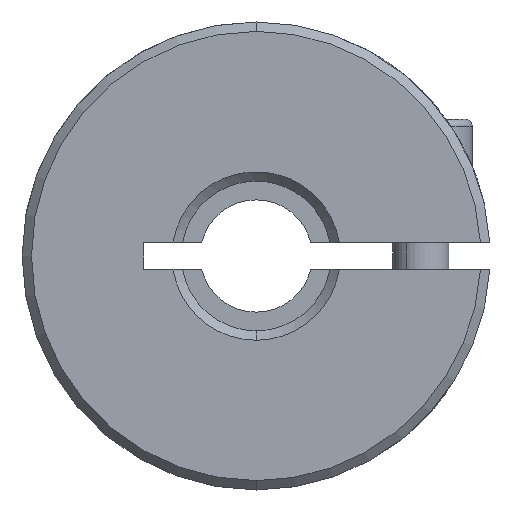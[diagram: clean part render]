
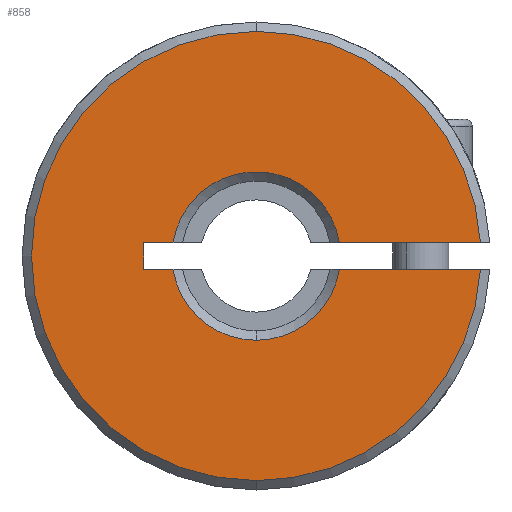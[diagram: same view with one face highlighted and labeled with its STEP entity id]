
A CAD part, front view. The second image highlights one B-rep face of the part: STEP entity #858.
In plain terms, the highlighted planar face has unit normal (0, -1, 0).
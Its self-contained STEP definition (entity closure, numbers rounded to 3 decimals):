
#4 = AXIS2_PLACEMENT_3D ( 'NONE', #5576, #4146, #5552 ) ;
#71 = CARTESIAN_POINT ( 'NONE',  ( 0., 0.25, 12. ) ) ;
#103 = CARTESIAN_POINT ( 'NONE',  ( -6., 0.25, 0.7 ) ) ;
#136 = LINE ( 'NONE', #103, #5336 ) ;
#160 = CARTESIAN_POINT ( 'NONE',  ( 11.98, 0.25, -0.7 ) ) ;
#226 = CARTESIAN_POINT ( 'NONE',  ( -6., 0.25, -0.7 ) ) ;
#272 = CARTESIAN_POINT ( 'NONE',  ( 0., 0.25, 0. ) ) ;
#403 = ORIENTED_EDGE ( 'NONE', *, *, #3407, .F. ) ;
#459 = EDGE_CURVE ( 'NONE', #3957, #2940, #2270, .T. ) ;
#525 = CARTESIAN_POINT ( 'NONE',  ( -6., 0.25, 0.7 ) ) ;
#602 = EDGE_CURVE ( 'NONE', #1663, #2940, #4792, .T. ) ;
#624 = CARTESIAN_POINT ( 'NONE',  ( 0., 0.25, 0. ) ) ;
#652 = VERTEX_POINT ( 'NONE', #2485 ) ;
#662 = DIRECTION ( 'NONE',  ( 1., 0., 0. ) ) ;
#724 = EDGE_CURVE ( 'NONE', #3102, #4240, #4523, .T. ) ;
#835 = ORIENTED_EDGE ( 'NONE', *, *, #5335, .F. ) ;
#837 = DIRECTION ( 'NONE',  ( 0., 1., 0. ) ) ;
#845 = DIRECTION ( 'NONE',  ( 0., 0., -1. ) ) ;
#858 = ADVANCED_FACE ( 'NONE', ( #3272 ), #938, .F. ) ;
#899 = AXIS2_PLACEMENT_3D ( 'NONE', #3546, #2690, #4986 ) ;
#938 = PLANE ( 'NONE',  #1987 ) ;
#996 = DIRECTION ( 'NONE',  ( 0., 1., 0. ) ) ;
#1061 = VERTEX_POINT ( 'NONE', #4479 ) ;
#1168 = CARTESIAN_POINT ( 'NONE',  ( 4.445, 0.25, 0.7 ) ) ;
#1184 = CIRCLE ( 'NONE', #4860, 4.5 ) ;
#1237 = LINE ( 'NONE', #1319, #2941 ) ;
#1319 = CARTESIAN_POINT ( 'NONE',  ( -6., 0.25, -0.7 ) ) ;
#1364 = ORIENTED_EDGE ( 'NONE', *, *, #2906, .T. ) ;
#1371 = VERTEX_POINT ( 'NONE', #71 ) ;
#1393 = CARTESIAN_POINT ( 'NONE',  ( -4.445, 0.25, -0.7 ) ) ;
#1475 = EDGE_CURVE ( 'NONE', #4347, #3625, #1872, .T. ) ;
#1491 = DIRECTION ( 'NONE',  ( -1., 0., 0. ) ) ;
#1518 = ORIENTED_EDGE ( 'NONE', *, *, #1576, .F. ) ;
#1562 = AXIS2_PLACEMENT_3D ( 'NONE', #272, #2469, #1608 ) ;
#1576 = EDGE_CURVE ( 'NONE', #1061, #3997, #136, .T. ) ;
#1608 = DIRECTION ( 'NONE',  ( 0., 0., 1. ) ) ;
#1640 = DIRECTION ( 'NONE',  ( 0., 0., 1. ) ) ;
#1663 = VERTEX_POINT ( 'NONE', #5608 ) ;
#1706 = DIRECTION ( 'NONE',  ( 1., 0., 0. ) ) ;
#1872 = LINE ( 'NONE', #4885, #3789 ) ;
#1930 = DIRECTION ( 'NONE',  ( -1., 0., 0. ) ) ;
#1987 = AXIS2_PLACEMENT_3D ( 'NONE', #3237, #2805, #4633 ) ;
#2186 = ORIENTED_EDGE ( 'NONE', *, *, #3451, .T. ) ;
#2270 = CIRCLE ( 'NONE', #4, 12. ) ;
#2283 = EDGE_CURVE ( 'NONE', #1663, #3102, #3540, .T. ) ;
#2439 = CARTESIAN_POINT ( 'NONE',  ( 0., 0.25, 0. ) ) ;
#2469 = DIRECTION ( 'NONE',  ( 0., 1., 0. ) ) ;
#2485 = CARTESIAN_POINT ( 'NONE',  ( -4.445, 0.25, 0.7 ) ) ;
#2605 = ORIENTED_EDGE ( 'NONE', *, *, #2283, .T. ) ;
#2690 = DIRECTION ( 'NONE',  ( 0., -1., 0. ) ) ;
#2773 = CIRCLE ( 'NONE', #899, 12. ) ;
#2798 = DIRECTION ( 'NONE',  ( 0., 0., 1. ) ) ;
#2805 = DIRECTION ( 'NONE',  ( 0., 1., 0. ) ) ;
#2884 = LINE ( 'NONE', #5564, #5632 ) ;
#2906 = EDGE_CURVE ( 'NONE', #1061, #1371, #2773, .T. ) ;
#2940 = VERTEX_POINT ( 'NONE', #160 ) ;
#2941 = VECTOR ( 'NONE', #1706, 1000. ) ;
#3102 = VERTEX_POINT ( 'NONE', #3390 ) ;
#3237 = CARTESIAN_POINT ( 'NONE',  ( -50., 0.25, 17.349 ) ) ;
#3272 = FACE_OUTER_BOUND ( 'NONE', #4190, .T. ) ;
#3297 = VECTOR ( 'NONE', #662, 1000. ) ;
#3333 = EDGE_CURVE ( 'NONE', #652, #3997, #1184, .T. ) ;
#3383 = DIRECTION ( 'NONE',  ( 0., -1., 0. ) ) ;
#3390 = CARTESIAN_POINT ( 'NONE',  ( 0., 0.25, -4.5 ) ) ;
#3407 = EDGE_CURVE ( 'NONE', #652, #4347, #2884, .T. ) ;
#3451 = EDGE_CURVE ( 'NONE', #1371, #3957, #5246, .T. ) ;
#3540 = CIRCLE ( 'NONE', #1562, 4.5 ) ;
#3546 = CARTESIAN_POINT ( 'NONE',  ( 0., 0.25, 0. ) ) ;
#3625 = VERTEX_POINT ( 'NONE', #4009 ) ;
#3789 = VECTOR ( 'NONE', #845, 1000. ) ;
#3805 = ORIENTED_EDGE ( 'NONE', *, *, #1475, .F. ) ;
#3924 = ORIENTED_EDGE ( 'NONE', *, *, #3333, .T. ) ;
#3957 = VERTEX_POINT ( 'NONE', #5587 ) ;
#3964 = DIRECTION ( 'NONE',  ( 0., 0., 1. ) ) ;
#3997 = VERTEX_POINT ( 'NONE', #1168 ) ;
#4009 = CARTESIAN_POINT ( 'NONE',  ( -6., 0.25, -0.7 ) ) ;
#4115 = AXIS2_PLACEMENT_3D ( 'NONE', #2439, #3383, #1640 ) ;
#4146 = DIRECTION ( 'NONE',  ( 0., -1., 0. ) ) ;
#4190 = EDGE_LOOP ( 'NONE', ( #403, #3924, #1518, #1364, #2186, #5273, #4615, #2605, #4285, #835, #3805 ) ) ;
#4240 = VERTEX_POINT ( 'NONE', #1393 ) ;
#4285 = ORIENTED_EDGE ( 'NONE', *, *, #724, .T. ) ;
#4347 = VERTEX_POINT ( 'NONE', #525 ) ;
#4479 = CARTESIAN_POINT ( 'NONE',  ( 11.98, 0.25, 0.7 ) ) ;
#4523 = CIRCLE ( 'NONE', #4719, 4.5 ) ;
#4615 = ORIENTED_EDGE ( 'NONE', *, *, #602, .F. ) ;
#4633 = DIRECTION ( 'NONE',  ( 0., 0., 1. ) ) ;
#4719 = AXIS2_PLACEMENT_3D ( 'NONE', #4906, #837, #3964 ) ;
#4792 = LINE ( 'NONE', #226, #3297 ) ;
#4860 = AXIS2_PLACEMENT_3D ( 'NONE', #624, #996, #2798 ) ;
#4885 = CARTESIAN_POINT ( 'NONE',  ( -6., 0.25, -0.7 ) ) ;
#4906 = CARTESIAN_POINT ( 'NONE',  ( 0., 0.25, 0. ) ) ;
#4986 = DIRECTION ( 'NONE',  ( 0., 0., 1. ) ) ;
#5246 = CIRCLE ( 'NONE', #4115, 12. ) ;
#5273 = ORIENTED_EDGE ( 'NONE', *, *, #459, .T. ) ;
#5335 = EDGE_CURVE ( 'NONE', #3625, #4240, #1237, .T. ) ;
#5336 = VECTOR ( 'NONE', #1930, 1000. ) ;
#5552 = DIRECTION ( 'NONE',  ( 0., 0., 1. ) ) ;
#5564 = CARTESIAN_POINT ( 'NONE',  ( -6., 0.25, 0.7 ) ) ;
#5576 = CARTESIAN_POINT ( 'NONE',  ( 0., 0.25, 0. ) ) ;
#5587 = CARTESIAN_POINT ( 'NONE',  ( 0., 0.25, -12. ) ) ;
#5608 = CARTESIAN_POINT ( 'NONE',  ( 4.445, 0.25, -0.7 ) ) ;
#5632 = VECTOR ( 'NONE', #1491, 1000. ) ;
